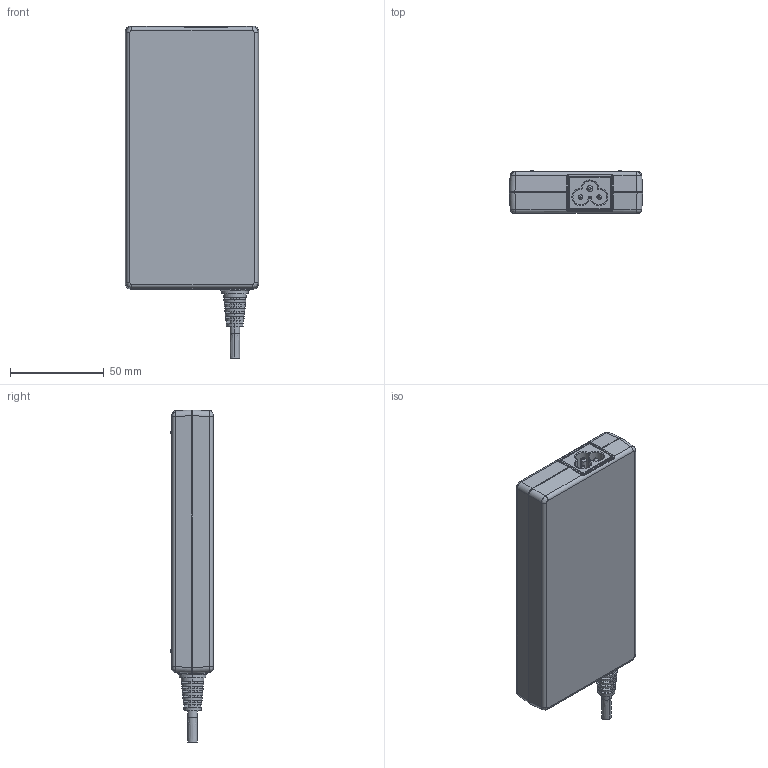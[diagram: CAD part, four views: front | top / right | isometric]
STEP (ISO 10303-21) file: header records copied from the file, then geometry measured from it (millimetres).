
FILE_DESCRIPTION((''),'2;1');
FILE_NAME('ASM0001_ASM','2018-09-13T',('huyf'),(''),'PRO/ENGINEER BY PARAMETRIC TECHNOLOGY CORPORATION, 2014000','PRO/ENGINEER BY PARAMETRIC TECHNOLOGY CORPORATION, 2014000','');
FILE_SCHEMA(('CONFIG_CONTROL_DESIGN'));
Length unit declared in the file: millimetre
Products named in the file (5): BOTTOM; TOP; INLET; SR1; ASM0001_ASM
Assembly tree (4 placements, depth 2):
  ASM0001_ASM
    BOTTOM
    TOP
    INLET
    SR1
Bounding box: 71 x 22.5 x 176.61 mm (x, y, z)
Volume: 55054.3 mm3; surface area: 62106.9 mm2
Topology: 4 solids, 4 shells, 597 faces, 1533 edges, 981 vertices
Faces by surface type: plane 320, cylinder 157, bspline 62, cone 22, sphere 20, torus 16
Entity records: 22053 total; most frequent: CARTESIAN_POINT 7767, ORIENTED_EDGE 3050, DIRECTION 2772, EDGE_CURVE 1525, VERTEX_POINT 981, VECTOR 976, LINE 976, AXIS2_PLACEMENT_3D 898
